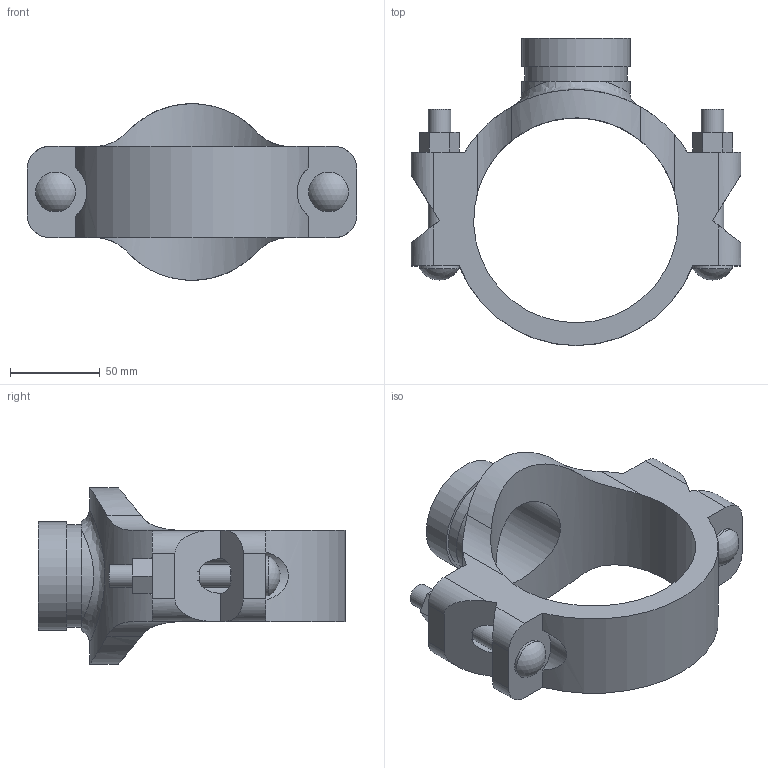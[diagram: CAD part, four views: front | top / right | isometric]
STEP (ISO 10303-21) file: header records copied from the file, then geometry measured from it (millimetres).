
FILE_DESCRIPTION(/* description */ ('VIC SS MECHANICAL T BRANCH OUTLET STYLE 422 (OGS)','CAx-IF Rec.Pracs.---Representation and Presentation of Product Manufacturing Information (PMI)---4.0---2014-10-13'),/* implementation_level */ '2;1');
FILE_NAME(/* name */ 'C:\Files for Export\422\STEP\Victaulic_SS-OGS_Mech-Tee Out_Style 422 (OGS)\Victaulic_SS-OGS_Mech-Tee Out_Style 422 (OGS)_04.0x02.0 (100x50).stp',/* time_stamp */ '2023-03-28T13:59:45+02:00',/* author */ ('jheald'),/* organization */ ('Victaulic'),/* preprocessor_version */ 'ST-DEVELOPER v18.1',/* originating_system */ 'Autodesk Inventor 2020',/* authorisation */ '');
FILE_SCHEMA (('AP242_MANAGED_MODEL_BASED_3D_ENGINEERING_MIM_LF { 1 0 10303 442 1 1 4 }'));
Length unit declared in the file: inch
Products named in the file (1): 422-04.0x02.0
Bounding box: 184.15 x 171.45 x 98.53 mm (x, y, z)
Volume: 448412.2 mm3; surface area: 93559.4 mm2
Topology: 1 solids, 1 shells, 82 faces, 241 edges, 164 vertices
Faces by surface type: plane 43, cylinder 36, sphere 2, bspline 1
Full cylindrical faces by diameter (mm): 12.7 x4, 22.225 x2, 50.8 x1, 57.15 x1, 60.325 x1, 114.3 x1
Entity records: 3535 total; most frequent: CARTESIAN_POINT 1076, DIRECTION 490, ORIENTED_EDGE 482, EDGE_CURVE 241, AXIS2_PLACEMENT_3D 178, VERTEX_POINT 164, LINE 134, VECTOR 134
